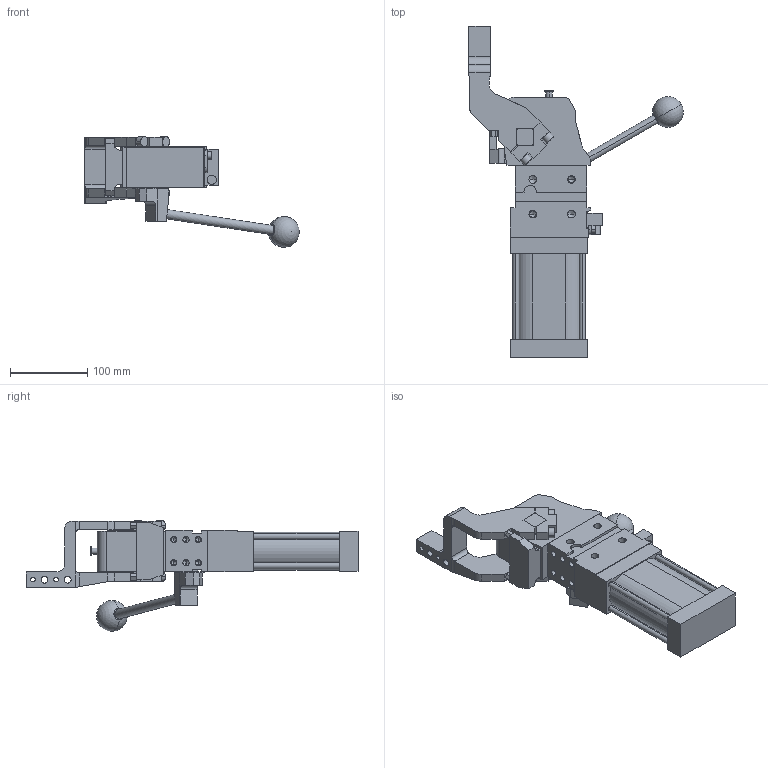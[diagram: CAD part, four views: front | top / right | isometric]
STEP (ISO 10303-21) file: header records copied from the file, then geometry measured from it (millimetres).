
FILE_DESCRIPTION (( 'STEP AP214' ), '1' );
FILE_NAME ('cplm63lbth3di1g_107.STEP', '2023-01-26T15:07:39', ( '' ), ( '' ), 'SwSTEP 2.0', 'SolidWorks 2022', '' );
FILE_SCHEMA (( 'AUTOMOTIVE_DESIGN' ));
Length unit declared in the file: millimetre
Products named in the file (5): meccanica_cplm_63_tassello_esterno; cplm63lbth3di1g_107; leva_h3d_cpl63t; blocchetto_VEP_0; comando_manuale_cplm_63
Assembly tree (4 placements, depth 2):
  cplm63lbth3di1g_107
    meccanica_cplm_63_tassello_esterno
    blocchetto_VEP_0
    leva_h3d_cpl63t
    comando_manuale_cplm_63
Bounding box: 277.96 x 430.5 x 143.5 mm (x, y, z)
Volume: 1920126.1 mm3; surface area: 218419.5 mm2
Topology: 4 solids, 4 shells, 467 faces, 1233 edges, 769 vertices
Faces by surface type: plane 252, cylinder 163, cone 50, sphere 2
Entity records: 15688 total; most frequent: CARTESIAN_POINT 2528, DIRECTION 2471, ORIENTED_EDGE 2364, EDGE_CURVE 1182, AXIS2_PLACEMENT_3D 831, LINE 809, VECTOR 809, VERTEX_POINT 766
